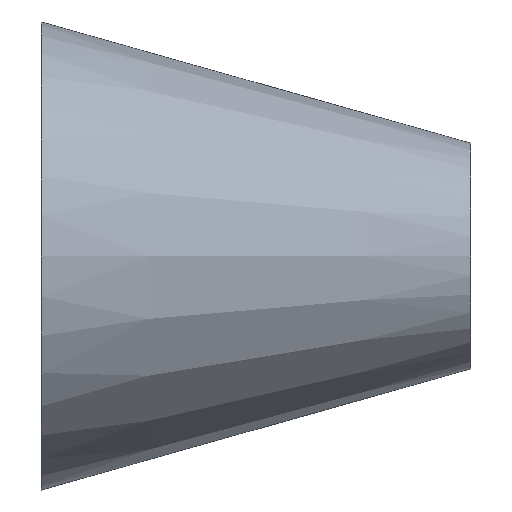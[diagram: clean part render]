
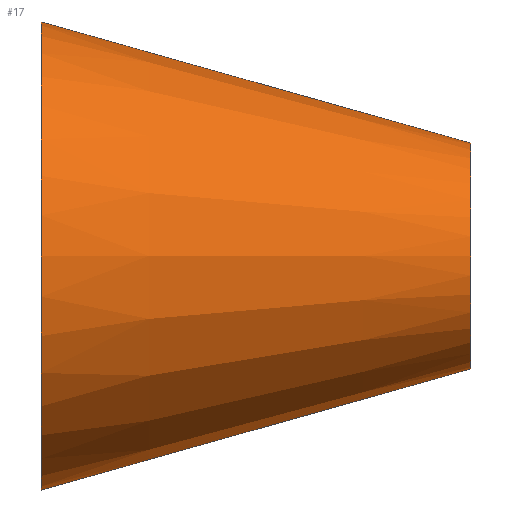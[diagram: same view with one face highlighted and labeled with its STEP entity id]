
A CAD part, front view. The second image highlights one B-rep face of the part: STEP entity #17.
In plain terms, the highlighted conical face has half-angle 15.751 degrees and reference radius 42.5 mm.
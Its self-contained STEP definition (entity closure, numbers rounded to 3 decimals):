
#17 = ADVANCED_FACE('',(#18),#31,.T.);
#18 = FACE_BOUND('',#19,.T.);
#19 = EDGE_LOOP('',(#20,#54,#74,#101));
#20 = ORIENTED_EDGE('',*,*,#21,.T.);
#21 = EDGE_CURVE('',#22,#22,#24,.T.);
#22 = VERTEX_POINT('',#23);
#23 = CARTESIAN_POINT('',(0.,42.5,0.));
#24 = SURFACE_CURVE('',#25,(#30,#42),.PCURVE_S1.);
#25 = CIRCLE('',#26,42.5);
#26 = AXIS2_PLACEMENT_3D('',#27,#28,#29);
#27 = CARTESIAN_POINT('',(0.,0.,0.));
#28 = DIRECTION('',(1.,0.,0.));
#29 = DIRECTION('',(0.,1.,0.));
#30 = PCURVE('',#31,#36);
#31 = CONICAL_SURFACE('',#32,42.5,0.275);
#32 = AXIS2_PLACEMENT_3D('',#33,#34,#35);
#33 = CARTESIAN_POINT('',(0.,0.,0.));
#34 = DIRECTION('',(-1.,-0.,-0.));
#35 = DIRECTION('',(0.,1.,0.));
#36 = DEFINITIONAL_REPRESENTATION('',(#37),#41);
#37 = LINE('',#38,#39);
#38 = CARTESIAN_POINT('',(-0.,-0.));
#39 = VECTOR('',#40,1.);
#40 = DIRECTION('',(-1.,-0.));
#41 = ( GEOMETRIC_REPRESENTATION_CONTEXT(2) 
PARAMETRIC_REPRESENTATION_CONTEXT() REPRESENTATION_CONTEXT('2D SPACE',''
  ) );
#42 = PCURVE('',#43,#48);
#43 = PLANE('',#44);
#44 = AXIS2_PLACEMENT_3D('',#45,#46,#47);
#45 = CARTESIAN_POINT('',(0.,0.,0.));
#46 = DIRECTION('',(1.,0.,0.));
#47 = DIRECTION('',(0.,1.,0.));
#48 = DEFINITIONAL_REPRESENTATION('',(#49),#53);
#49 = CIRCLE('',#50,42.5);
#50 = AXIS2_PLACEMENT_2D('',#51,#52);
#51 = CARTESIAN_POINT('',(0.,0.));
#52 = DIRECTION('',(1.,0.));
#53 = ( GEOMETRIC_REPRESENTATION_CONTEXT(2) 
PARAMETRIC_REPRESENTATION_CONTEXT() REPRESENTATION_CONTEXT('2D SPACE',''
  ) );
#54 = ORIENTED_EDGE('',*,*,#55,.T.);
#55 = EDGE_CURVE('',#22,#56,#58,.T.);
#56 = VERTEX_POINT('',#57);
#57 = CARTESIAN_POINT('',(78.,20.5,0.));
#58 = SEAM_CURVE('',#59,(#62,#68),.PCURVE_S1.);
#59 = B_SPLINE_CURVE_WITH_KNOTS('',1,(#60,#61),.UNSPECIFIED.,.F.,.F.,(2,
    2),(0.,1.),.PIECEWISE_BEZIER_KNOTS.);
#60 = CARTESIAN_POINT('',(0.,42.5,0.));
#61 = CARTESIAN_POINT('',(78.,20.5,0.));
#62 = PCURVE('',#31,#63);
#63 = DEFINITIONAL_REPRESENTATION('',(#64),#67);
#64 = B_SPLINE_CURVE_WITH_KNOTS('',1,(#65,#66),.UNSPECIFIED.,.F.,.F.,(2,
    2),(0.,1.),.PIECEWISE_BEZIER_KNOTS.);
#65 = CARTESIAN_POINT('',(-6.283,0.));
#66 = CARTESIAN_POINT('',(-6.283,-78.));
#67 = ( GEOMETRIC_REPRESENTATION_CONTEXT(2) 
PARAMETRIC_REPRESENTATION_CONTEXT() REPRESENTATION_CONTEXT('2D SPACE',''
  ) );
#68 = PCURVE('',#31,#69);
#69 = DEFINITIONAL_REPRESENTATION('',(#70),#73);
#70 = B_SPLINE_CURVE_WITH_KNOTS('',1,(#71,#72),.UNSPECIFIED.,.F.,.F.,(2,
    2),(0.,1.),.PIECEWISE_BEZIER_KNOTS.);
#71 = CARTESIAN_POINT('',(0.,0.));
#72 = CARTESIAN_POINT('',(0.,-78.));
#73 = ( GEOMETRIC_REPRESENTATION_CONTEXT(2) 
PARAMETRIC_REPRESENTATION_CONTEXT() REPRESENTATION_CONTEXT('2D SPACE',''
  ) );
#74 = ORIENTED_EDGE('',*,*,#75,.F.);
#75 = EDGE_CURVE('',#56,#56,#76,.T.);
#76 = SURFACE_CURVE('',#77,(#82,#89),.PCURVE_S1.);
#77 = CIRCLE('',#78,20.5);
#78 = AXIS2_PLACEMENT_3D('',#79,#80,#81);
#79 = CARTESIAN_POINT('',(78.,0.,0.));
#80 = DIRECTION('',(1.,0.,0.));
#81 = DIRECTION('',(0.,1.,0.));
#82 = PCURVE('',#31,#83);
#83 = DEFINITIONAL_REPRESENTATION('',(#84),#88);
#84 = LINE('',#85,#86);
#85 = CARTESIAN_POINT('',(-0.,-78.));
#86 = VECTOR('',#87,1.);
#87 = DIRECTION('',(-1.,-0.));
#88 = ( GEOMETRIC_REPRESENTATION_CONTEXT(2) 
PARAMETRIC_REPRESENTATION_CONTEXT() REPRESENTATION_CONTEXT('2D SPACE',''
  ) );
#89 = PCURVE('',#90,#95);
#90 = PLANE('',#91);
#91 = AXIS2_PLACEMENT_3D('',#92,#93,#94);
#92 = CARTESIAN_POINT('',(78.,0.,0.));
#93 = DIRECTION('',(1.,0.,0.));
#94 = DIRECTION('',(0.,1.,0.));
#95 = DEFINITIONAL_REPRESENTATION('',(#96),#100);
#96 = CIRCLE('',#97,20.5);
#97 = AXIS2_PLACEMENT_2D('',#98,#99);
#98 = CARTESIAN_POINT('',(0.,0.));
#99 = DIRECTION('',(1.,0.));
#100 = ( GEOMETRIC_REPRESENTATION_CONTEXT(2) 
PARAMETRIC_REPRESENTATION_CONTEXT() REPRESENTATION_CONTEXT('2D SPACE',''
  ) );
#101 = ORIENTED_EDGE('',*,*,#55,.F.);
